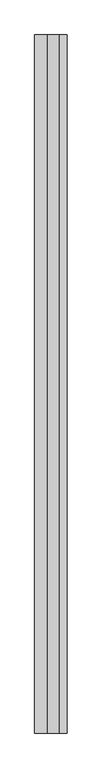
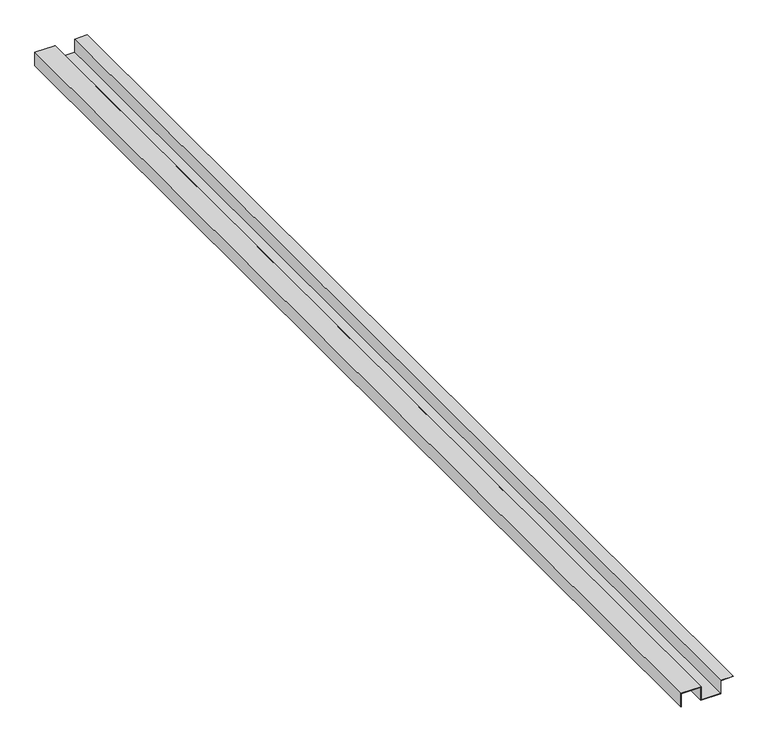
"""IFC4 building model written with IfcOpenShell, lengths in millimetres: proxy geometry, AQUAPLAST - Lamel elewacyjny : Lamel elewacyjny."""

from ifc_helpers import new_model, si_unit, frame, origin, place, context, project, spatial, polyline, outline, extrude, source, transform, mapped, element, save


def specialty_equipment_f18af2c6(model_context):
    return source(origin(), model_context, "Body", "SweptSolid", [
        extrude(outline(polyline([(38.0, -55.3), (0.8, -55.3), (0.8, -107.5), (38.0, -107.5), (38.0, -161.6), (0.0, -161.6), (0.0, -160.8), (37.2, -160.8), (37.2, -108.3), (0.0, -108.3), (0.0, -54.5), (37.2, -54.5), (37.2, -21.6), (38.0, -21.6), (38.0, -55.3)])), frame((0.0, 0.0, 0.0), z_axis=(0.0, 1.0, 0.0), x_axis=(0.0, 0.0, 1.0)), (0.0, 0.0, 1.0), 3000.0),
    ])


if __name__ == "__main__":
    model = new_model("IFC4")
    model_context = context("Model", 3, world=origin())
    ifc_project = project(units=[si_unit("LENGTHUNIT", "METRE", prefix="MILLI")], contexts=[model_context])
    site = spatial("IfcSite", under=ifc_project)
    building = spatial("IfcBuilding", under=site)
    placement = place(None, origin())
    specialty_equipment_shape = specialty_equipment_f18af2c6(model_context)
    element("IfcBuildingElementProxy", 1, Name="AQUAPLAST - Lamel elewacyjny : Lamel elewacyjny", ObjectType="AQUAPLAST - Lamel elewacyjny : Lamel elewacyjny", at=placement, inside=building, context=model_context, shape_type="MappedRepresentation", body=[
        mapped(specialty_equipment_shape, transform((0.0, 0.0, 0.0), x_axis=(1.0, 0.0, 0.0), y_axis=(0.0, 1.0, 0.0), z_axis=(0.0, 0.0, 1.0))),
    ])
    save(model, "model.ifc")
